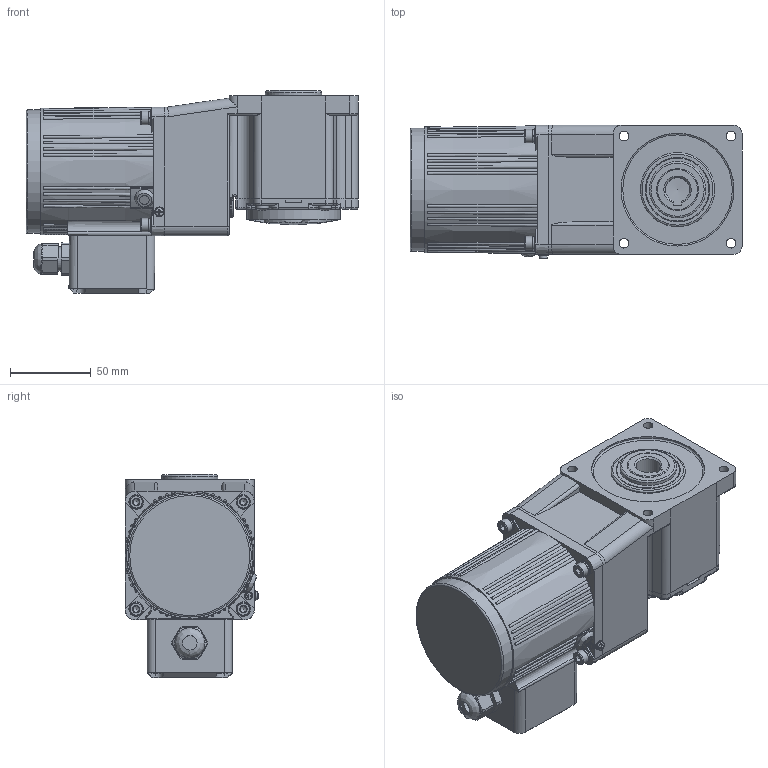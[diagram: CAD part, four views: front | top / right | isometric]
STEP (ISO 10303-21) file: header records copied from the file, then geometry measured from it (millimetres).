
FILE_DESCRIPTION(/* description */ (''),/* implementation_level */ '2;1');
FILE_NAME(/* name */ '80+中空直角-普通-25-40W 新版常规接线盒.stp',/* time_stamp */ '2025-03-30T13:00:56+08:00',/* author */ (''),/* organization */ (''),/* preprocessor_version */ 'ST-DEVELOPER v18.102',/* originating_system */ 'SIEMENS PLM Software NX 2027',/* authorisation */ '');
FILE_SCHEMA (('AP203_CONFIGURATION_CONTROLLED_3D_DESIGN_OF_MECHANICAL_PARTS_AND_ASSEMBLIES_MIM_LF { 1 0 10303 403 2 1 2}'));
Length unit declared in the file: millimetre
Products named in the file (1): 80+中空直角-普通-25-40W 新版_
stp_objects
Bounding box: 206 x 82.78 x 126.4 mm (x, y, z)
Volume: 1125976.3 mm3; surface area: 148606.7 mm2
Topology: 18 solids, 18 shells, 1032 faces, 2481 edges, 1545 vertices
Faces by surface type: plane 457, cylinder 277, cone 103, torus 96, bspline 85, sphere 14
Full cylindrical faces by diameter (mm): 2.5 x2, 2.6 x1, 2.7 x1, 3.2 x1, 3.5 x2, 4.2 x4, 4.4 x1, 4.5 x4, 4.826 x4, 5 x9, 5.1 x1, 5.3 x4, 6 x10, 8 x4, 8.2 x1, 8.5 x4, 9 x5, 10.5 x1, 12 x1, 15 x2, 16 x1, 18 x1, 19 x2, 25 x1, 26 x3, 35 x1, 40 x2, 40.5 x1, 46 x1, 52 x1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
Entity records: 36268 total; most frequent: CARTESIAN_POINT 14098, ORIENTED_EDGE 4456, DIRECTION 4255, EDGE_CURVE 2228, AXIS2_PLACEMENT_3D 1708, VERTEX_POINT 1462, EDGE_LOOP 1295, ADVANCED_FACE 1030
